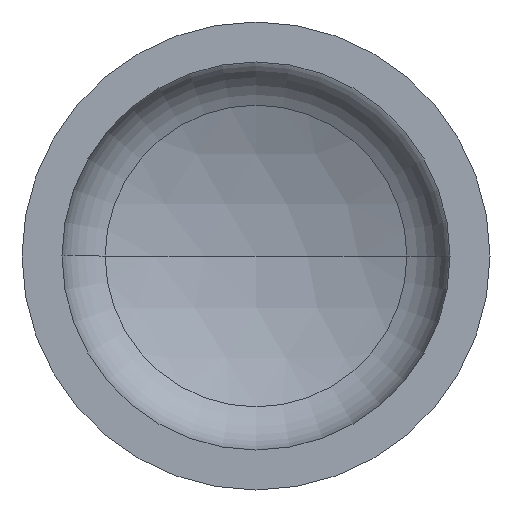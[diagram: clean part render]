
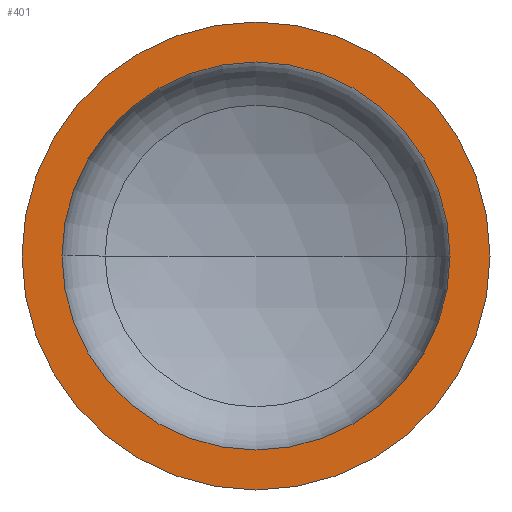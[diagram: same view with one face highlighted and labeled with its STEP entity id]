
A CAD part, front view. The second image highlights one B-rep face of the part: STEP entity #401.
In plain terms, the highlighted planar face has unit normal (0, -1, 0).
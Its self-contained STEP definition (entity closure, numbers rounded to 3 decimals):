
#8 = VERTEX_POINT ( 'NONE', #231 ) ;
#28 = VERTEX_POINT ( 'NONE', #216 ) ;
#31 = AXIS2_PLACEMENT_3D ( 'NONE', #166, #323, #190 ) ;
#39 = ORIENTED_EDGE ( 'NONE', *, *, #121, .F. ) ;
#45 = DIRECTION ( 'NONE',  ( 1., 0., 0. ) ) ;
#49 = DIRECTION ( 'NONE',  ( 0., -1., 0. ) ) ;
#52 = AXIS2_PLACEMENT_3D ( 'NONE', #158, #313, #178 ) ;
#58 = AXIS2_PLACEMENT_3D ( 'NONE', #180, #275, #45 ) ;
#61 = AXIS2_PLACEMENT_3D ( 'NONE', #257, #49, #213 ) ;
#75 = EDGE_CURVE ( 'NONE', #88, #28, #145, .T. ) ;
#76 = EDGE_CURVE ( 'NONE', #122, #8, #297, .T. ) ;
#80 = ORIENTED_EDGE ( 'NONE', *, *, #76, .F. ) ;
#88 = VERTEX_POINT ( 'NONE', #146 ) ;
#100 = ORIENTED_EDGE ( 'NONE', *, *, #312, .T. ) ;
#105 = ORIENTED_EDGE ( 'NONE', *, *, #75, .T. ) ;
#116 = EDGE_LOOP ( 'NONE', ( #80, #39 ) ) ;
#121 = EDGE_CURVE ( 'NONE', #8, #122, #229, .T. ) ;
#122 = VERTEX_POINT ( 'NONE', #238 ) ;
#138 = EDGE_LOOP ( 'NONE', ( #100, #105 ) ) ;
#145 = CIRCLE ( 'NONE', #61, 550. ) ;
#146 = CARTESIAN_POINT ( 'NONE',  ( -550., 0., 0. ) ) ;
#158 = CARTESIAN_POINT ( 'NONE',  ( 0., 0., 0. ) ) ;
#159 = CIRCLE ( 'NONE', #31, 550. ) ;
#162 = DIRECTION ( 'NONE',  ( -1., 0., 0. ) ) ;
#166 = CARTESIAN_POINT ( 'NONE',  ( 0., 0., 0. ) ) ;
#178 = DIRECTION ( 'NONE',  ( 1., 0., 0. ) ) ;
#180 = CARTESIAN_POINT ( 'NONE',  ( 0., 0., 0. ) ) ;
#184 = FACE_OUTER_BOUND ( 'NONE', #138, .T. ) ;
#190 = DIRECTION ( 'NONE',  ( 1., 0., 0. ) ) ;
#210 = AXIS2_PLACEMENT_3D ( 'NONE', #339, #364, #162 ) ;
#213 = DIRECTION ( 'NONE',  ( 1., 0., 0. ) ) ;
#216 = CARTESIAN_POINT ( 'NONE',  ( 550., 0., 0. ) ) ;
#229 = CIRCLE ( 'NONE', #52, 456. ) ;
#231 = CARTESIAN_POINT ( 'NONE',  ( -456., 0., 0. ) ) ;
#238 = CARTESIAN_POINT ( 'NONE',  ( 456., 0., 0. ) ) ;
#257 = CARTESIAN_POINT ( 'NONE',  ( 0., 0., 0. ) ) ;
#275 = DIRECTION ( 'NONE',  ( 0., -1., 0. ) ) ;
#297 = CIRCLE ( 'NONE', #58, 456. ) ;
#312 = EDGE_CURVE ( 'NONE', #28, #88, #159, .T. ) ;
#313 = DIRECTION ( 'NONE',  ( 0., -1., 0. ) ) ;
#323 = DIRECTION ( 'NONE',  ( 0., -1., 0. ) ) ;
#332 = PLANE ( 'NONE',  #210 ) ;
#339 = CARTESIAN_POINT ( 'NONE',  ( -550., 0., 0. ) ) ;
#346 = FACE_BOUND ( 'NONE', #116, .T. ) ;
#364 = DIRECTION ( 'NONE',  ( 0., 1., 0. ) ) ;
#401 = ADVANCED_FACE ( 'NONE', ( #346, #184 ), #332, .F. ) ;
